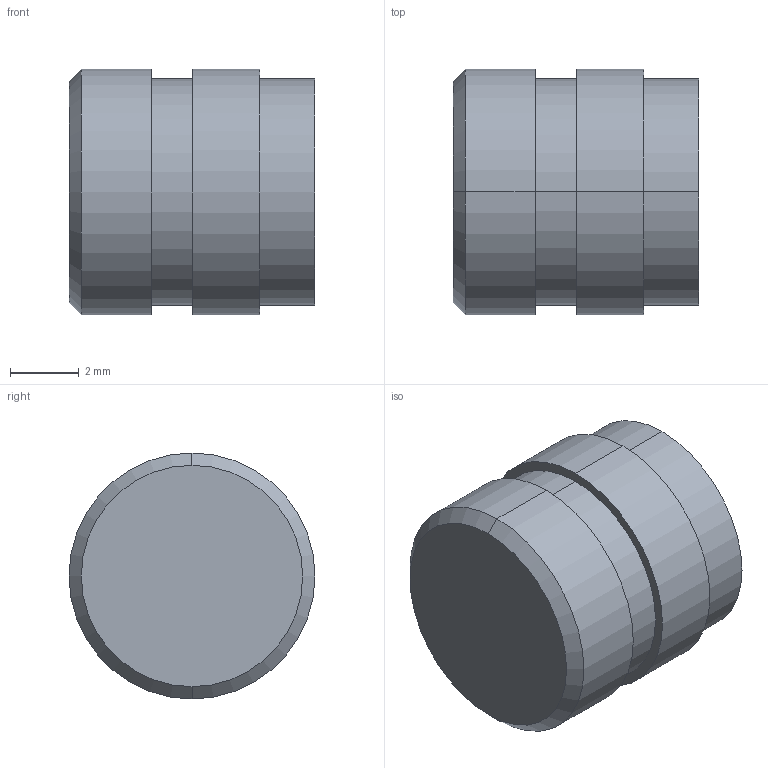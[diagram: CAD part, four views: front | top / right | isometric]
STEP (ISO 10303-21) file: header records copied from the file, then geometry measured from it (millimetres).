
FILE_DESCRIPTION(('starvars output'),'2;1');
FILE_NAME('cv20190722134532000028511.stp','13:45:32 2019/07/22',( 'Thomas Industrial Network Germany GmbH'),( 'Thomas Industrial Network Germany GmbH'),'unknown preprocess','ACIS' ,'unknown authorization');
FILE_SCHEMA(('AUTOMOTIVE_DESIGN_CC2 {UNKNOWN IMPLEMENTATION LEVEL}'));
Length unit declared in the file: millimetre
Products named in the file (1): PRODUCT_ID_2
Bounding box: 7.13 x 7.14 x 7.14 mm (x, y, z)
Volume: 188.1 mm3; surface area: 311.1 mm2
Topology: 1 solids, 1 shells, 24 faces, 48 edges, 29 vertices
Faces by surface type: cylinder 12, plane 6, cone 6
Entity records: 778 total; most frequent: ORIENTED_EDGE 92, CARTESIAN_POINT 76, DIRECTION 76, EDGE_CURVE 46, VERTEX_POINT 29, AXIS2_PLACEMENT_3D 29, EDGE_LOOP 29, FACE_BOUND 29
